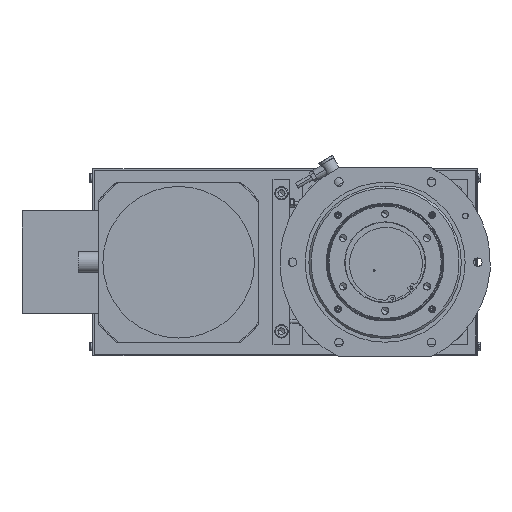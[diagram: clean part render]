
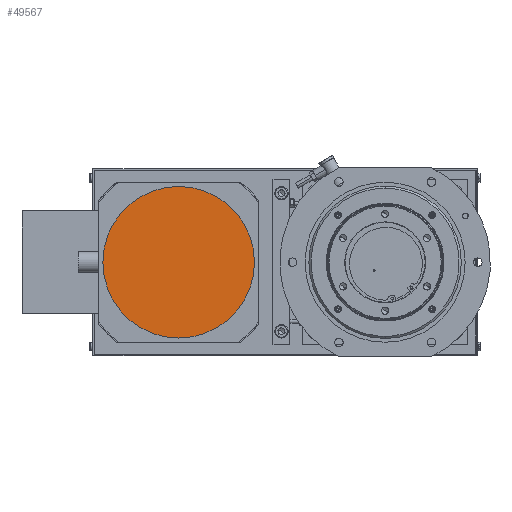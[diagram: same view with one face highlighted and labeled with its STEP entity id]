
A CAD part, front view. The second image highlights one B-rep face of the part: STEP entity #49567.
In plain terms, the highlighted planar face has unit normal (0, -1, 0).
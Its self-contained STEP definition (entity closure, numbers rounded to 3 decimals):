
#251 = CARTESIAN_POINT ( 'NONE',  ( -189.891, -130.221, 134.409 ) ) ;
#4870 = DIRECTION ( 'NONE',  ( 0., -1., 0. ) ) ;
#8902 = EDGE_CURVE ( 'NONE', #26910, #15167, #40597, .T. ) ;
#9580 = DIRECTION ( 'NONE',  ( 0., 1., 0. ) ) ;
#15167 = VERTEX_POINT ( 'NONE', #40737 ) ;
#16667 = EDGE_CURVE ( 'NONE', #15167, #26910, #32012, .T. ) ;
#17774 = PLANE ( 'NONE',  #35942 ) ;
#24249 = ORIENTED_EDGE ( 'NONE', *, *, #16667, .T. ) ;
#25363 = CARTESIAN_POINT ( 'NONE',  ( -189.891, -130.221, 134.409 ) ) ;
#26910 = VERTEX_POINT ( 'NONE', #48243 ) ;
#28523 = EDGE_LOOP ( 'NONE', ( #24249, #54146 ) ) ;
#29356 = DIRECTION ( 'NONE',  ( 0., -1., 0. ) ) ;
#32012 = CIRCLE ( 'NONE', #55335, 90. ) ;
#34909 = CARTESIAN_POINT ( 'NONE',  ( -94.891, -130.221, 229.409 ) ) ;
#35942 = AXIS2_PLACEMENT_3D ( 'NONE', #34909, #9580, #52558 ) ;
#37896 = DIRECTION ( 'NONE',  ( -1., 0., 0. ) ) ;
#38752 = FACE_OUTER_BOUND ( 'NONE', #28523, .T. ) ;
#40597 = CIRCLE ( 'NONE', #55323, 90. ) ;
#40737 = CARTESIAN_POINT ( 'NONE',  ( -279.891, -130.221, 134.409 ) ) ;
#48164 = DIRECTION ( 'NONE',  ( -1., 0., 0. ) ) ;
#48243 = CARTESIAN_POINT ( 'NONE',  ( -99.891, -130.221, 134.409 ) ) ;
#49567 = ADVANCED_FACE ( 'NONE', ( #38752 ), #17774, .F. ) ;
#52558 = DIRECTION ( 'NONE',  ( 1., 0., 0. ) ) ;
#54146 = ORIENTED_EDGE ( 'NONE', *, *, #8902, .T. ) ;
#55323 = AXIS2_PLACEMENT_3D ( 'NONE', #251, #4870, #48164 ) ;
#55335 = AXIS2_PLACEMENT_3D ( 'NONE', #25363, #29356, #37896 ) ;
